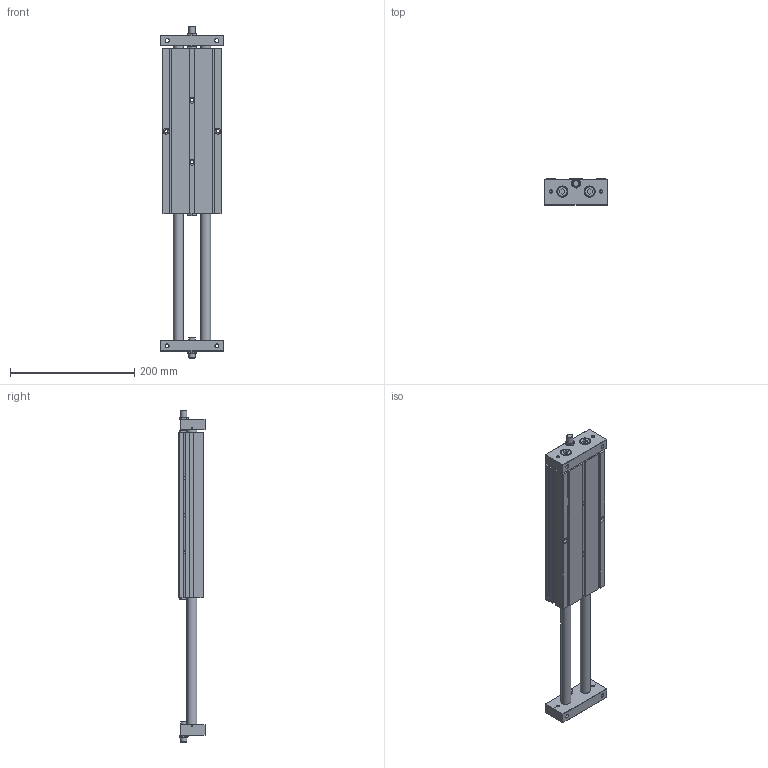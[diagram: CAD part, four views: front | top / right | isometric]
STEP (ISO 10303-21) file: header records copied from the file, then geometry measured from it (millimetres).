
FILE_DESCRIPTION((''),'2;1');
FILE_NAME('I:\3D電子目錄\氣缸\STU\STU\STU32\STU10x200.stp','2007-10-01T14:05:50',('Administrator'),(''),'Autodesk Inventor 11','Autodesk Inventor 11','');
FILE_SCHEMA(('AUTOMOTIVE_DESIGN { 1 0 10303 214 1 1 1 1 }'));
Length unit declared in the file: millimetre
Products named in the file (1): STU32
Bounding box: 100 x 42.5 x 535 mm (x, y, z)
Volume: 1182888.8 mm3; surface area: 160408.4 mm2
Topology: 1 solids, 1 shells, 315 faces, 744 edges, 472 vertices
Faces by surface type: plane 145, cone 76, bspline 62, cylinder 28, torus 4
Full cylindrical faces by diameter (mm): 2.459 x2, 9.5 x4, 10 x4, 16 x6, 17.5 x4, 34 x2, 35.9 x2
Entity records: 9985 total; most frequent: CARTESIAN_POINT 3594, ORIENTED_EDGE 1220, DIRECTION 1212, EDGE_CURVE 610, EDGE_LOOP 518, AXIS2_PLACEMENT_3D 464, VERTEX_POINT 446, FACE_OUTER_BOUND 315
